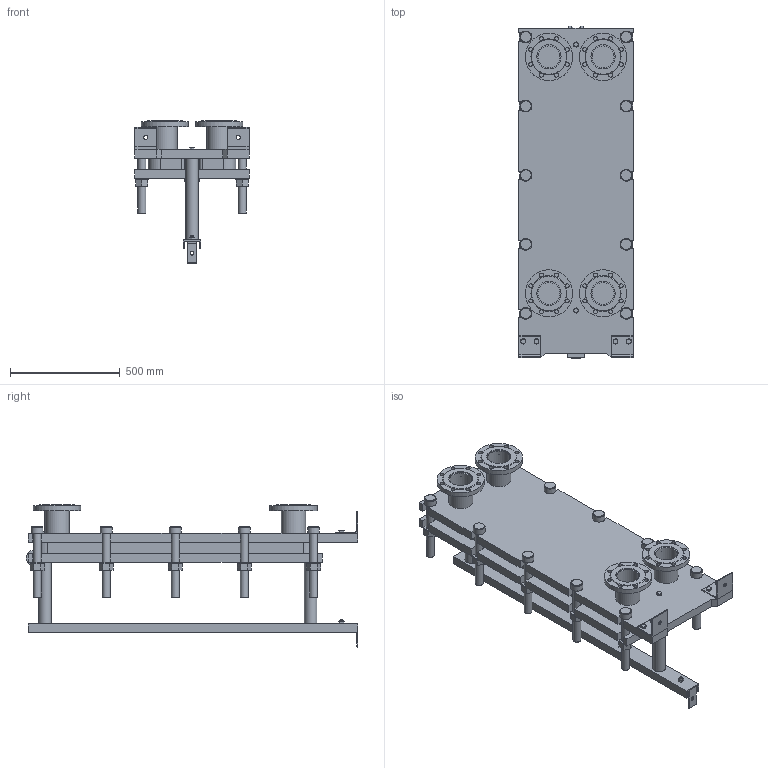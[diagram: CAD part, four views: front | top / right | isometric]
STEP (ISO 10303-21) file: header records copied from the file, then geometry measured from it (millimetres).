
FILE_DESCRIPTION(/* description */ (''),/* implementation_level */ '2;1');
FILE_NAME(/* name */ 'C:\Users\zhuro\Desktop\ENCO\TO\ЭН-04\ЭН-0,5-04-15-1.stp',/* time_stamp */ '2022-06-06T10:45:32+03:00',/* author */ ('zhuro'),/* organization */ (''),/* preprocessor_version */ 'ST-DEVELOPER v18.1',/* originating_system */ 'Autodesk Inventor 2022',/* authorisation */ '');
FILE_SCHEMA (('AUTOMOTIVE_DESIGN { 1 0 10303 214 3 1 1 }'));
Length unit declared in the file: millimetre
Products named in the file (1): ЭН-0,5-04-15-1
Bounding box: 520 x 1510 x 647.5 mm (x, y, z)
Volume: 92492539.9 mm3; surface area: 6486103.9 mm2
Topology: 45 solids, 45 shells, 668 faces, 1611 edges, 1048 vertices
Faces by surface type: plane 457, cylinder 166, cone 39, torus 6
Full cylindrical faces by diameter (mm): 8 x4, 10 x2, 16 x8, 18 x35, 36 x25, 40 x2, 42 x1, 45 x4, 54 x10, 57 x2, 60 x10, 68 x2, 100 x4, 110 x8, 215 x4
Entity records: 23607 total; most frequent: CARTESIAN_POINT 7348, DIRECTION 3371, ORIENTED_EDGE 3142, EDGE_CURVE 1571, AXIS2_PLACEMENT_3D 1199, VERTEX_POINT 1044, LINE 973, VECTOR 973
